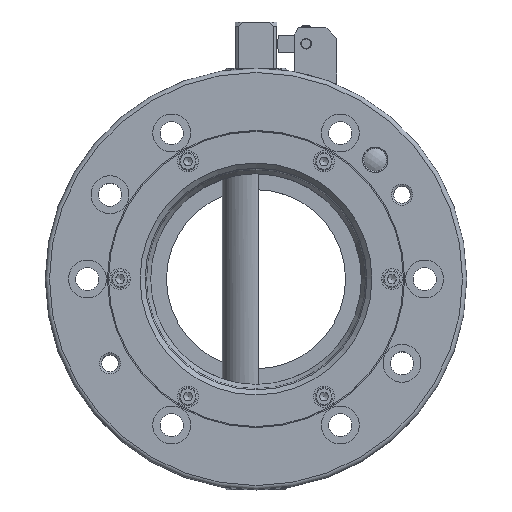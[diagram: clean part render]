
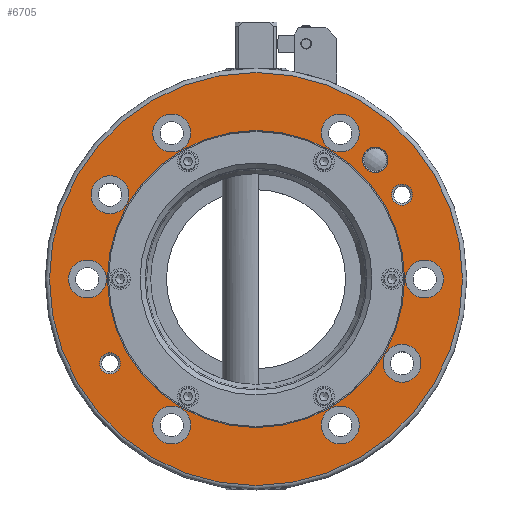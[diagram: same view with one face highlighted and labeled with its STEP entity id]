
A CAD part, top view. The second image highlights one B-rep face of the part: STEP entity #6705.
In plain terms, the highlighted planar face has unit normal (0, 0, 1).
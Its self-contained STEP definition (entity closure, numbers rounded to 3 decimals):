
#369=FACE_BOUND('',#1394,.T.);
#370=FACE_BOUND('',#1395,.T.);
#371=FACE_BOUND('',#1396,.T.);
#372=FACE_BOUND('',#1397,.T.);
#373=FACE_BOUND('',#1398,.T.);
#374=FACE_BOUND('',#1399,.T.);
#375=FACE_BOUND('',#1400,.T.);
#376=FACE_BOUND('',#1401,.T.);
#377=FACE_BOUND('',#1402,.T.);
#378=FACE_BOUND('',#1403,.T.);
#379=FACE_BOUND('',#1404,.T.);
#380=FACE_BOUND('',#1405,.T.);
#537=CIRCLE('',#7180,70.5);
#556=CIRCLE('',#7210,5.);
#557=CIRCLE('',#7211,5.);
#560=CIRCLE('',#7216,5.);
#561=CIRCLE('',#7217,5.);
#565=CIRCLE('',#7224,98.);
#566=CIRCLE('',#7225,9.);
#567=CIRCLE('',#7226,9.);
#568=CIRCLE('',#7227,9.);
#569=CIRCLE('',#7228,9.);
#570=CIRCLE('',#7229,9.);
#571=CIRCLE('',#7230,9.);
#572=CIRCLE('',#7231,9.);
#573=CIRCLE('',#7232,9.);
#574=CIRCLE('',#7233,9.);
#575=CIRCLE('',#7234,9.);
#576=CIRCLE('',#7235,9.);
#577=CIRCLE('',#7236,9.);
#578=CIRCLE('',#7237,9.);
#579=CIRCLE('',#7238,9.);
#580=CIRCLE('',#7239,9.);
#581=CIRCLE('',#7240,9.);
#582=CIRCLE('',#7241,6.);
#583=CIRCLE('',#7242,6.);
#1006=FACE_OUTER_BOUND('',#1393,.T.);
#1393=EDGE_LOOP('',(#4599));
#1394=EDGE_LOOP('',(#4600,#4601));
#1395=EDGE_LOOP('',(#4602,#4603));
#1396=EDGE_LOOP('',(#4604,#4605));
#1397=EDGE_LOOP('',(#4606,#4607));
#1398=EDGE_LOOP('',(#4608,#4609));
#1399=EDGE_LOOP('',(#4610,#4611));
#1400=EDGE_LOOP('',(#4612,#4613));
#1401=EDGE_LOOP('',(#4614,#4615));
#1402=EDGE_LOOP('',(#4616));
#1403=EDGE_LOOP('',(#4617,#4618));
#1404=EDGE_LOOP('',(#4619,#4620));
#1405=EDGE_LOOP('',(#4621,#4622));
#2638=VERTEX_POINT('',#10478);
#2657=VERTEX_POINT('',#10537);
#2658=VERTEX_POINT('',#10539);
#2661=VERTEX_POINT('',#10549);
#2662=VERTEX_POINT('',#10551);
#2665=VERTEX_POINT('',#10563);
#2666=VERTEX_POINT('',#10565);
#2667=VERTEX_POINT('',#10566);
#2668=VERTEX_POINT('',#10569);
#2669=VERTEX_POINT('',#10570);
#2670=VERTEX_POINT('',#10573);
#2671=VERTEX_POINT('',#10574);
#2672=VERTEX_POINT('',#10577);
#2673=VERTEX_POINT('',#10578);
#2674=VERTEX_POINT('',#10581);
#2675=VERTEX_POINT('',#10582);
#2676=VERTEX_POINT('',#10585);
#2677=VERTEX_POINT('',#10586);
#2678=VERTEX_POINT('',#10589);
#2679=VERTEX_POINT('',#10590);
#2680=VERTEX_POINT('',#10593);
#2681=VERTEX_POINT('',#10594);
#2682=VERTEX_POINT('',#10597);
#2683=VERTEX_POINT('',#10598);
#3375=EDGE_CURVE('',#2638,#2638,#537,.T.);
#3405=EDGE_CURVE('',#2658,#2657,#556,.T.);
#3406=EDGE_CURVE('',#2657,#2658,#557,.T.);
#3411=EDGE_CURVE('',#2662,#2661,#560,.T.);
#3412=EDGE_CURVE('',#2661,#2662,#561,.T.);
#3417=EDGE_CURVE('',#2665,#2665,#565,.T.);
#3418=EDGE_CURVE('',#2666,#2667,#566,.T.);
#3419=EDGE_CURVE('',#2667,#2666,#567,.T.);
#3420=EDGE_CURVE('',#2668,#2669,#568,.T.);
#3421=EDGE_CURVE('',#2669,#2668,#569,.T.);
#3422=EDGE_CURVE('',#2670,#2671,#570,.T.);
#3423=EDGE_CURVE('',#2671,#2670,#571,.T.);
#3424=EDGE_CURVE('',#2672,#2673,#572,.T.);
#3425=EDGE_CURVE('',#2673,#2672,#573,.T.);
#3426=EDGE_CURVE('',#2674,#2675,#574,.T.);
#3427=EDGE_CURVE('',#2675,#2674,#575,.T.);
#3428=EDGE_CURVE('',#2676,#2677,#576,.T.);
#3429=EDGE_CURVE('',#2677,#2676,#577,.T.);
#3430=EDGE_CURVE('',#2678,#2679,#578,.T.);
#3431=EDGE_CURVE('',#2679,#2678,#579,.T.);
#3432=EDGE_CURVE('',#2680,#2681,#580,.T.);
#3433=EDGE_CURVE('',#2681,#2680,#581,.T.);
#3434=EDGE_CURVE('',#2682,#2683,#582,.T.);
#3435=EDGE_CURVE('',#2683,#2682,#583,.T.);
#4599=ORIENTED_EDGE('',*,*,#3417,.F.);
#4600=ORIENTED_EDGE('',*,*,#3418,.T.);
#4601=ORIENTED_EDGE('',*,*,#3419,.T.);
#4602=ORIENTED_EDGE('',*,*,#3420,.T.);
#4603=ORIENTED_EDGE('',*,*,#3421,.T.);
#4604=ORIENTED_EDGE('',*,*,#3422,.T.);
#4605=ORIENTED_EDGE('',*,*,#3423,.T.);
#4606=ORIENTED_EDGE('',*,*,#3424,.T.);
#4607=ORIENTED_EDGE('',*,*,#3425,.T.);
#4608=ORIENTED_EDGE('',*,*,#3426,.T.);
#4609=ORIENTED_EDGE('',*,*,#3427,.T.);
#4610=ORIENTED_EDGE('',*,*,#3428,.T.);
#4611=ORIENTED_EDGE('',*,*,#3429,.T.);
#4612=ORIENTED_EDGE('',*,*,#3430,.T.);
#4613=ORIENTED_EDGE('',*,*,#3431,.T.);
#4614=ORIENTED_EDGE('',*,*,#3432,.T.);
#4615=ORIENTED_EDGE('',*,*,#3433,.T.);
#4616=ORIENTED_EDGE('',*,*,#3375,.T.);
#4617=ORIENTED_EDGE('',*,*,#3434,.T.);
#4618=ORIENTED_EDGE('',*,*,#3435,.T.);
#4619=ORIENTED_EDGE('',*,*,#3405,.T.);
#4620=ORIENTED_EDGE('',*,*,#3406,.T.);
#4621=ORIENTED_EDGE('',*,*,#3411,.T.);
#4622=ORIENTED_EDGE('',*,*,#3412,.T.);
#6132=PLANE('',#7223);
#6705=ADVANCED_FACE('',(#1006,#369,#370,#371,#372,#373,#374,#375,#376,#377,
#378,#379,#380),#6132,.F.);
#7180=AXIS2_PLACEMENT_3D('',#10479,#8266,#8267);
#7210=AXIS2_PLACEMENT_3D('',#10540,#8337,#8338);
#7211=AXIS2_PLACEMENT_3D('',#10541,#8339,#8340);
#7216=AXIS2_PLACEMENT_3D('',#10552,#8351,#8352);
#7217=AXIS2_PLACEMENT_3D('',#10553,#8353,#8354);
#7223=AXIS2_PLACEMENT_3D('',#10562,#8366,#8367);
#7224=AXIS2_PLACEMENT_3D('',#10564,#8368,#8369);
#7225=AXIS2_PLACEMENT_3D('',#10567,#8370,#8371);
#7226=AXIS2_PLACEMENT_3D('',#10568,#8372,#8373);
#7227=AXIS2_PLACEMENT_3D('',#10571,#8374,#8375);
#7228=AXIS2_PLACEMENT_3D('',#10572,#8376,#8377);
#7229=AXIS2_PLACEMENT_3D('',#10575,#8378,#8379);
#7230=AXIS2_PLACEMENT_3D('',#10576,#8380,#8381);
#7231=AXIS2_PLACEMENT_3D('',#10579,#8382,#8383);
#7232=AXIS2_PLACEMENT_3D('',#10580,#8384,#8385);
#7233=AXIS2_PLACEMENT_3D('',#10583,#8386,#8387);
#7234=AXIS2_PLACEMENT_3D('',#10584,#8388,#8389);
#7235=AXIS2_PLACEMENT_3D('',#10587,#8390,#8391);
#7236=AXIS2_PLACEMENT_3D('',#10588,#8392,#8393);
#7237=AXIS2_PLACEMENT_3D('',#10591,#8394,#8395);
#7238=AXIS2_PLACEMENT_3D('',#10592,#8396,#8397);
#7239=AXIS2_PLACEMENT_3D('',#10595,#8398,#8399);
#7240=AXIS2_PLACEMENT_3D('',#10596,#8400,#8401);
#7241=AXIS2_PLACEMENT_3D('',#10599,#8402,#8403);
#7242=AXIS2_PLACEMENT_3D('',#10600,#8404,#8405);
#8266=DIRECTION('center_axis',(0.,0.,-1.));
#8267=DIRECTION('ref_axis',(-1.,0.,0.));
#8337=DIRECTION('center_axis',(0.,0.,-1.));
#8338=DIRECTION('ref_axis',(1.,0.,0.));
#8339=DIRECTION('center_axis',(0.,0.,-1.));
#8340=DIRECTION('ref_axis',(1.,0.,0.));
#8351=DIRECTION('center_axis',(0.,0.,-1.));
#8352=DIRECTION('ref_axis',(1.,0.,0.));
#8353=DIRECTION('center_axis',(0.,0.,-1.));
#8354=DIRECTION('ref_axis',(1.,0.,0.));
#8366=DIRECTION('center_axis',(0.,0.,-1.));
#8367=DIRECTION('ref_axis',(-1.,0.,0.));
#8368=DIRECTION('center_axis',(0.,0.,-1.));
#8369=DIRECTION('ref_axis',(-1.,0.,0.));
#8370=DIRECTION('center_axis',(0.,0.,-1.));
#8371=DIRECTION('ref_axis',(1.,0.,0.));
#8372=DIRECTION('center_axis',(0.,0.,-1.));
#8373=DIRECTION('ref_axis',(1.,0.,0.));
#8374=DIRECTION('center_axis',(0.,0.,-1.));
#8375=DIRECTION('ref_axis',(1.,0.,0.));
#8376=DIRECTION('center_axis',(0.,0.,-1.));
#8377=DIRECTION('ref_axis',(1.,0.,0.));
#8378=DIRECTION('center_axis',(0.,0.,-1.));
#8379=DIRECTION('ref_axis',(1.,0.,0.));
#8380=DIRECTION('center_axis',(0.,0.,-1.));
#8381=DIRECTION('ref_axis',(1.,0.,0.));
#8382=DIRECTION('center_axis',(0.,0.,-1.));
#8383=DIRECTION('ref_axis',(1.,0.,0.));
#8384=DIRECTION('center_axis',(0.,0.,-1.));
#8385=DIRECTION('ref_axis',(1.,0.,0.));
#8386=DIRECTION('center_axis',(0.,0.,-1.));
#8387=DIRECTION('ref_axis',(1.,0.,0.));
#8388=DIRECTION('center_axis',(0.,0.,-1.));
#8389=DIRECTION('ref_axis',(1.,0.,0.));
#8390=DIRECTION('center_axis',(0.,0.,-1.));
#8391=DIRECTION('ref_axis',(1.,0.,0.));
#8392=DIRECTION('center_axis',(0.,0.,-1.));
#8393=DIRECTION('ref_axis',(1.,0.,0.));
#8394=DIRECTION('center_axis',(0.,0.,-1.));
#8395=DIRECTION('ref_axis',(1.,0.,0.));
#8396=DIRECTION('center_axis',(0.,0.,-1.));
#8397=DIRECTION('ref_axis',(1.,0.,0.));
#8398=DIRECTION('center_axis',(0.,0.,-1.));
#8399=DIRECTION('ref_axis',(1.,0.,0.));
#8400=DIRECTION('center_axis',(0.,0.,-1.));
#8401=DIRECTION('ref_axis',(1.,0.,0.));
#8402=DIRECTION('center_axis',(0.,0.,-1.));
#8403=DIRECTION('ref_axis',(1.,0.,0.));
#8404=DIRECTION('center_axis',(0.,0.,-1.));
#8405=DIRECTION('ref_axis',(1.,0.,0.));
#10478=CARTESIAN_POINT('',(70.5,0.,32.5));
#10479=CARTESIAN_POINT('Origin',(0.,0.,32.5));
#10537=CARTESIAN_POINT('',(-74.282,-40.,32.5));
#10539=CARTESIAN_POINT('',(-64.282,-40.,32.5));
#10540=CARTESIAN_POINT('Origin',(-69.282,-40.,32.5));
#10541=CARTESIAN_POINT('Origin',(-69.282,-40.,32.5));
#10549=CARTESIAN_POINT('',(64.282,40.,32.5));
#10551=CARTESIAN_POINT('',(74.282,40.,32.5));
#10552=CARTESIAN_POINT('Origin',(69.282,40.,32.5));
#10553=CARTESIAN_POINT('Origin',(69.282,40.,32.5));
#10562=CARTESIAN_POINT('Origin',(0.,0.,32.5));
#10563=CARTESIAN_POINT('',(98.,0.,32.5));
#10564=CARTESIAN_POINT('Origin',(0.,0.,32.5));
#10565=CARTESIAN_POINT('',(-60.282,40.,32.5));
#10566=CARTESIAN_POINT('',(-78.282,40.,32.5));
#10567=CARTESIAN_POINT('Origin',(-69.282,40.,32.5));
#10568=CARTESIAN_POINT('Origin',(-69.282,40.,32.5));
#10569=CARTESIAN_POINT('',(49.,69.282,32.5));
#10570=CARTESIAN_POINT('',(31.,69.282,32.5));
#10571=CARTESIAN_POINT('Origin',(40.,69.282,32.5));
#10572=CARTESIAN_POINT('Origin',(40.,69.282,32.5));
#10573=CARTESIAN_POINT('',(78.282,-40.,32.5));
#10574=CARTESIAN_POINT('',(60.282,-40.,32.5));
#10575=CARTESIAN_POINT('Origin',(69.282,-40.,32.5));
#10576=CARTESIAN_POINT('Origin',(69.282,-40.,32.5));
#10577=CARTESIAN_POINT('',(-31.,-69.282,32.5));
#10578=CARTESIAN_POINT('',(-49.,-69.282,32.5));
#10579=CARTESIAN_POINT('Origin',(-40.,-69.282,32.5));
#10580=CARTESIAN_POINT('Origin',(-40.,-69.282,32.5));
#10581=CARTESIAN_POINT('',(49.,-69.282,32.5));
#10582=CARTESIAN_POINT('',(31.,-69.282,32.5));
#10583=CARTESIAN_POINT('Origin',(40.,-69.282,32.5));
#10584=CARTESIAN_POINT('Origin',(40.,-69.282,32.5));
#10585=CARTESIAN_POINT('',(89.,0.,32.5));
#10586=CARTESIAN_POINT('',(71.,0.,32.5));
#10587=CARTESIAN_POINT('Origin',(80.,0.,32.5));
#10588=CARTESIAN_POINT('Origin',(80.,0.,32.5));
#10589=CARTESIAN_POINT('',(-31.,69.282,32.5));
#10590=CARTESIAN_POINT('',(-49.,69.282,32.5));
#10591=CARTESIAN_POINT('Origin',(-40.,69.282,32.5));
#10592=CARTESIAN_POINT('Origin',(-40.,69.282,32.5));
#10593=CARTESIAN_POINT('',(-71.,0.,32.5));
#10594=CARTESIAN_POINT('',(-89.,0.,32.5));
#10595=CARTESIAN_POINT('Origin',(-80.,0.,32.5));
#10596=CARTESIAN_POINT('Origin',(-80.,0.,32.5));
#10597=CARTESIAN_POINT('',(62.569,56.569,32.5));
#10598=CARTESIAN_POINT('',(51.677,60.043,32.5));
#10599=CARTESIAN_POINT('Origin',(56.569,56.569,32.5));
#10600=CARTESIAN_POINT('Origin',(56.569,56.569,32.5));
